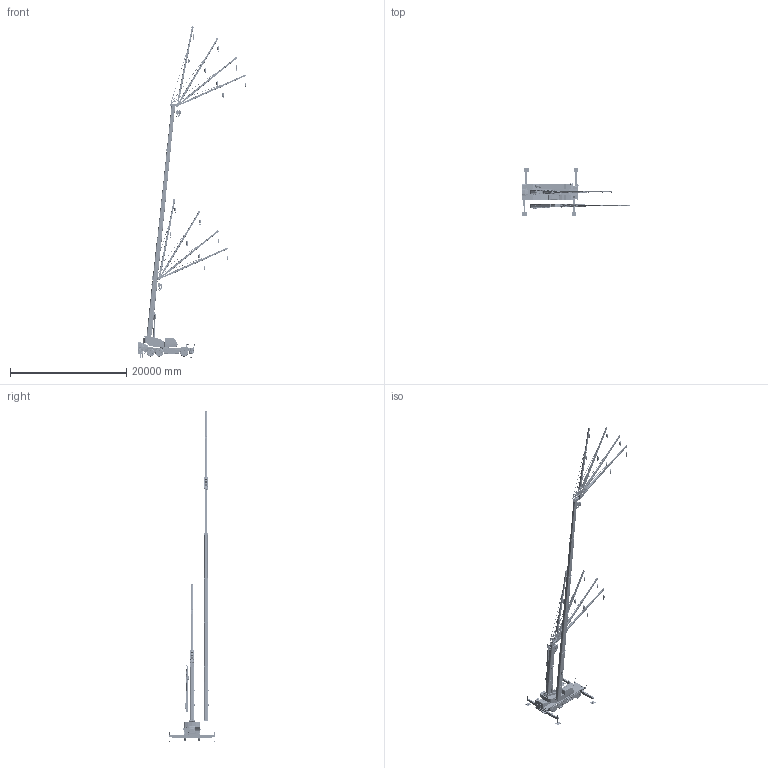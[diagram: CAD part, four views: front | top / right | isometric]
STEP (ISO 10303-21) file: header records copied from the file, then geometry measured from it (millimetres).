
FILE_DESCRIPTION(('CATIA V5 STEP Exchange','CAx-IF Rec.Pracs.--- Model Styling and Organization---1.4--- 2014-01-23'),'2;1');
FILE_NAME('\\Iba001\cad\CR\HP用CADデータ\11A\3D\STP\SL-500Rf2 3D.stp','2019-12-25T09:11:23+00:00',('none'),('none'),'CATIA Version 5-6 Release 2017 SP5 HF19','CATIA V5 STEP AP214','none');
FILE_SCHEMA(('AUTOMOTIVE_DESIGN { 1 0 10303 214 1 1 1 1 }'));
Products named in the file (45): SL-500Rf2 3D; SL-500Rf2 UPPER; SL-500Rf2 UPPER STRUCTURE; SL-500Rf2 TABLE; SL-500Rf2 CAB; SL-500Rf2 MACHINE ROOM; SL-500Rf2 DERRICK CYLINDER-1; SL-500Rf2 DERRICK CYLINDER-2; SL-500Rf2 BOOM JIB Min; SL-500Rf2 BOOM Min; SL-500Rf2 BOOM1; SL-500Rf2 BOOM2; SL-500Rf2 BOOM3; SL-500Rf2 BOOM4; SL-500Rf2 BOOM5; SL-500Rf2 JIB; SL-500Rf2 JIB 9.4m 5deg; SL-500Rf2 JIB1; SL-500Rf2 JIB2; SL-500Rf2 JIB3; SL-500Rf2 JIB TENSION ROD; SL-500Rf2 JIB 9.4m 25deg; SL-500Rf2 JIB 9.4m 45deg; SL-500Rf2 JIB 9.4m 60deg; SL-500Rf2 JIB 13.7m 5deg; SL-500Rf2 JIB 13.7m 25deg; SL-500Rf2 JIB 13.7m 45deg; SL-500Rf2 JIB 13.7m 60deg; SL-500Rf2 JIB Stowed; SL-500Rf2 JIB TENSION ROD Stowed; SL-500Rf2 HOOK 5.6t; SL-500Rf2 HOOK 34t; SL-500Rf2 HOOK 50t; SL-500Rf2 BOOM JIB Max; SL-500Rf2 BOOM Max; SL-500Rf2 CARRIER; SL-500Rf2 CHASSIS; SL-500Rf2 OUTRIGGER; SL-500Rf2 BEAM F-L; SL-500Rf2 BEAM OUTER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
Assembly tree (108 placements, depth 6):
  SL-500Rf2 3D
    SL-500Rf2 UPPER
      SL-500Rf2 UPPER STRUCTURE
        SL-500Rf2 TABLE
        SL-500Rf2 CAB
        SL-500Rf2 MACHINE ROOM
        SL-500Rf2 DERRICK CYLINDER-1
        SL-500Rf2 DERRICK CYLINDER-2
      SL-500Rf2 BOOM JIB Min
        SL-500Rf2 BOOM Min
          SL-500Rf2 BOOM1
          SL-500Rf2 BOOM2
          SL-500Rf2 BOOM3
          SL-500Rf2 BOOM4
          SL-500Rf2 BOOM5
        SL-500Rf2 JIB
          SL-500Rf2 JIB 9.4m 5deg
            SL-500Rf2 JIB1
            SL-500Rf2 JIB2
            SL-500Rf2 JIB3
            SL-500Rf2 JIB TENSION ROD
          SL-500Rf2 JIB 9.4m 25deg
            SL-500Rf2 JIB1
            SL-500Rf2 JIB2
            SL-500Rf2 JIB3
            SL-500Rf2 JIB TENSION ROD
          SL-500Rf2 JIB 9.4m 45deg
            SL-500Rf2 JIB1
            SL-500Rf2 JIB2
            SL-500Rf2 JIB3
            SL-500Rf2 JIB TENSION ROD
          SL-500Rf2 JIB 9.4m 60deg
            SL-500Rf2 JIB1
            SL-500Rf2 JIB2
            SL-500Rf2 JIB3
            SL-500Rf2 JIB TENSION ROD
          SL-500Rf2 JIB 13.7m 5deg
            SL-500Rf2 JIB1
            SL-500Rf2 JIB2
            SL-500Rf2 JIB3
            SL-500Rf2 JIB TENSION ROD
          SL-500Rf2 JIB 13.7m 25deg
            SL-500Rf2 JIB1
            SL-500Rf2 JIB2
            SL-500Rf2 JIB3
            SL-500Rf2 JIB TENSION ROD
          SL-500Rf2 JIB 13.7m 45deg
            SL-500Rf2 JIB1
            SL-500Rf2 JIB2
            SL-500Rf2 JIB3
            SL-500Rf2 JIB TENSION ROD
          SL-500Rf2 JIB 13.7m 60deg
            SL-500Rf2 JIB1
            SL-500Rf2 JIB2
            SL-500Rf2 JIB3
            SL-500Rf2 JIB TENSION ROD
        SL-500Rf2 JIB Stowed
          SL-500Rf2 JIB1
          SL-500Rf2 JIB2
          SL-500Rf2 JIB3
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Bounding box: 18712.46 x 8400 x 57020.33 mm (x, y, z)
Volume: 87034945935.4 mm3; surface area: 903015643.7 mm2
Topology: 266 solids, 271 shells, 14279 faces, 38591 edges, 25172 vertices
Faces by surface type: plane 8926, cylinder 3470, torus 875, extrusion 552, bspline 302, cone 137, sphere 16, revolution 1
Entity records: 167262 total; most frequent: CARTESIAN_POINT 65298, ORIENTED_EDGE 23658, DIRECTION 15604, EDGE_CURVE 11829, VERTEX_POINT 7722, VECTOR 7592, LINE 7180, AXIS2_PLACEMENT_3D 5033
